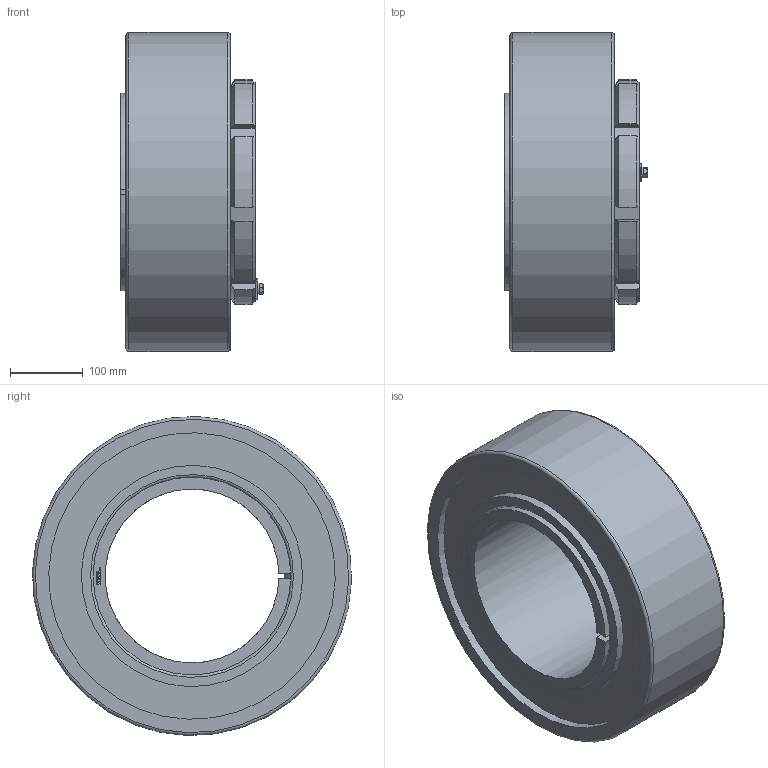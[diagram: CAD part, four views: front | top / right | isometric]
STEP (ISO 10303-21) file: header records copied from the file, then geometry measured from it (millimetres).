
FILE_DESCRIPTION( ( 'STEP AP203' ), ' ' );
FILE_NAME( 'p:/temp/worker_111/2248_3240/app_90_02016102822400053312861192d056f_000000_00_00_000000/format_0/BGL HA 3152 TL+C3152K.stp', '2016-10-28T20:40:03', ( '' ), ( '' ), ' ', 'PARTsolutions', ' ' );
FILE_SCHEMA( ( 'CONFIG_CONTROL_DESIGN' ) );
Length unit declared in the file: millimetre
Products named in the file (6): BGL HA 3152 TL+C3152K; _BGLHA3152TLB; _BGL HM 3052; _BGLHA3152TL+HA-C3152K; _BGL MS 3048-BGL MS 3052part; _BGL MS 3048-BGL MS 3052HHS
Assembly tree (5 placements, depth 2):
  BGL HA 3152 TL+C3152K
    _BGLHA3152TLB
    _BGL HM 3052
    _BGLHA3152TL+HA-C3152K
    _BGL MS 3048-BGL MS 3052part
    _BGL MS 3048-BGL MS 3052HHS
Bounding box: 196.05 x 439.85 x 439.85 mm (x, y, z)
Volume: 15211451.3 mm3; surface area: 981708.7 mm2
Topology: 5 solids, 5 shells, 351 faces, 899 edges, 589 vertices
Faces by surface type: plane 230, cylinder 79, cone 38, torus 4
Full cylindrical faces by diameter (mm): 8 x9, 9 x1, 14.8 x1, 256 x1, 305 x2, 395 x2, 440 x1
Entity records: 10762 total; most frequent: CARTESIAN_POINT 2104, DIRECTION 1729, ORIENTED_EDGE 1726, EDGE_CURVE 863, VERTEX_POINT 586, AXIS2_PLACEMENT_3D 577, LINE 575, VECTOR 575
